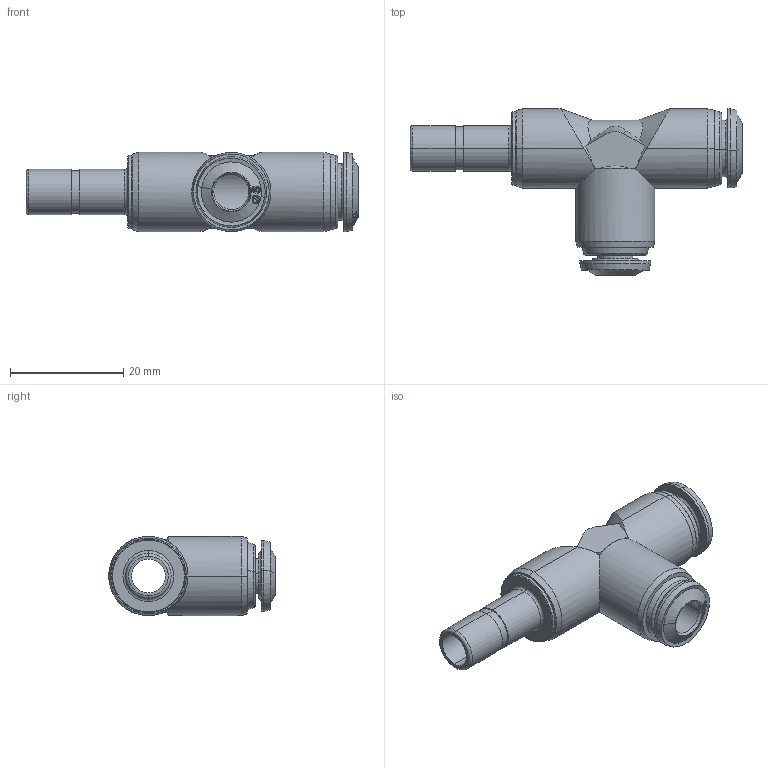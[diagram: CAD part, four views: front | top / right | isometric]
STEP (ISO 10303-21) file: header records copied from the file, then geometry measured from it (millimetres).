
FILE_DESCRIPTION (( 'STEP AP214' ), '1' );
FILE_NAME ('5523500010A.STEP', '2016-05-12T09:45:16', ( '' ), ( '' ), 'SwSTEP 2.0', 'SolidWorks 2016', '' );
FILE_SCHEMA (( 'AUTOMOTIVE_DESIGN' ));
Length unit declared in the file: millimetre
Products named in the file (1): 5523500010A
Bounding box: 58.7 x 29.4 x 14 mm (x, y, z)
Surface area: 4195.8 mm2 (no closed solid volume)
Topology: 0 solids, 6 shells, 251 faces, 695 edges, 464 vertices
Faces by surface type: bspline 124, cone 60, plane 28, cylinder 27, torus 12
Entity records: 19645 total; most frequent: CARTESIAN_POINT 11714, ORIENTED_EDGE 1324, EDGE_CURVE 695, DIRECTION 586, VERTEX_POINT 464, B_SPLINE_CURVE_WITH_KNOTS 461, EDGE_LOOP 281, UNCERTAINTY_MEASURE_WITH_UNIT 253
